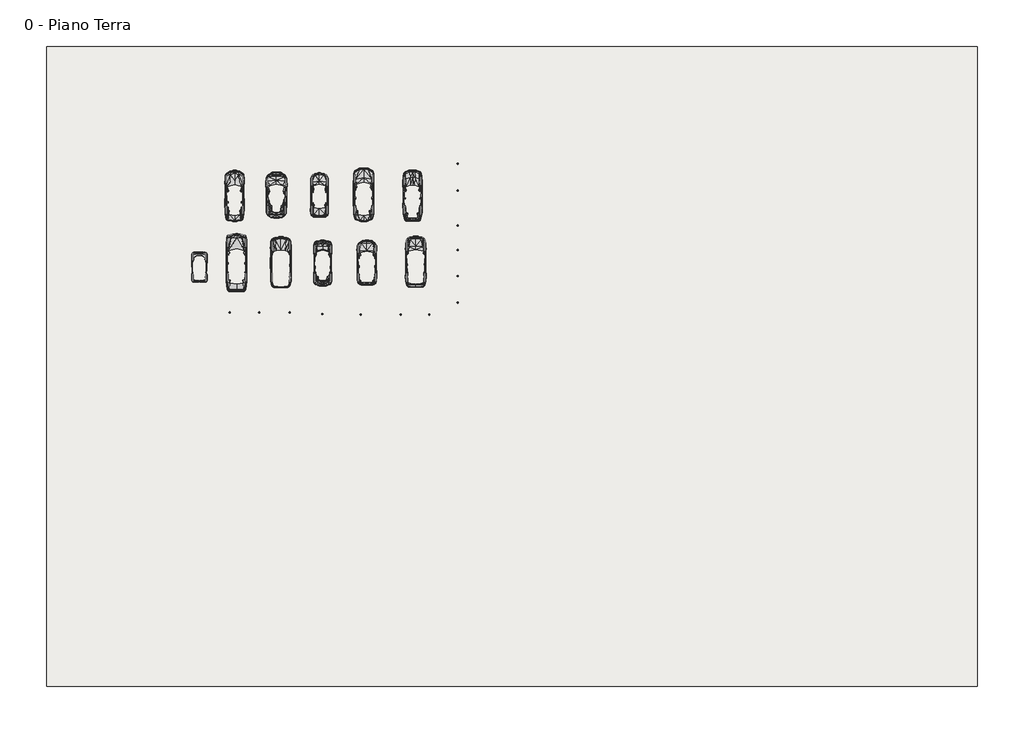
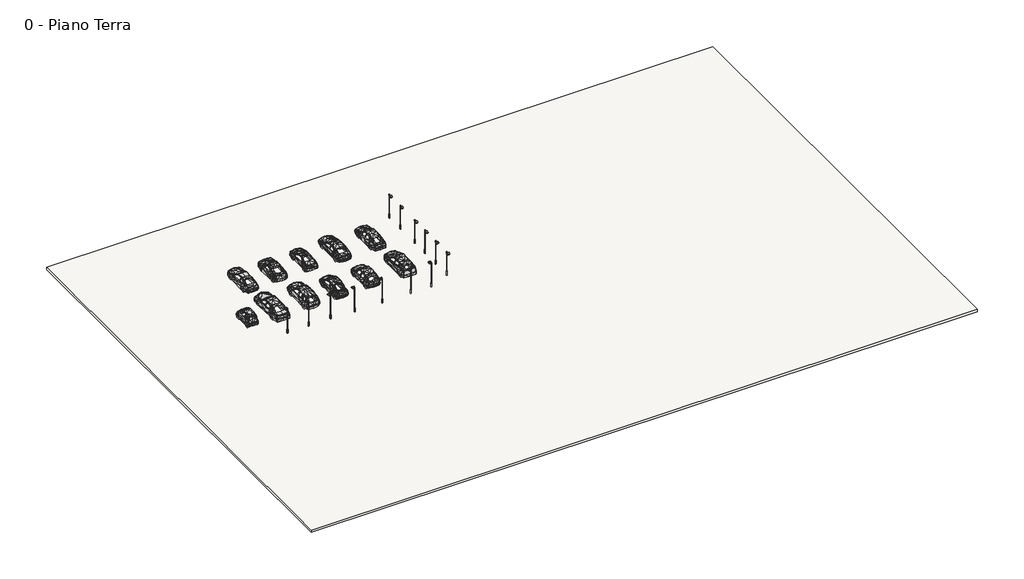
# One storey: 13 light fixtures, 11 proxies, 1 slab.
"""IFC4 building model written with IfcOpenShell, lengths in millimetres."""

from ifc_helpers import new_model, si_unit, frame, origin, place, context, project, spatial, polyline, outline, extrude, transform, mapped, element, save
from components import entourage_31f8b51e, entourage_d8d06d19, auto_2_305272bd, auto_focus_0fb7b8e4, auto_smart_939e52a2, auto1_e486ee05, auto3_8ea4b4d7, auto4_f5e02f9d, auto5_2e8bc6a9, auto6_a4401406, auto7_87290f92, light_fixture_99749a2d

model = new_model("IFC4")

# Units and contexts
model_context = context("Model", 3, world=origin())
ifc_project = project(units=[si_unit("LENGTHUNIT", "METRE", prefix="MILLI")], contexts=[model_context])

# Site, building, storey
site = spatial("IfcSite", under=ifc_project)
building = spatial("IfcBuilding", under=site)
storey = spatial("IfcBuildingStorey", under=building, Name="0 - Piano Terra", Elevation=0.0)

# Proxies
placement = place(None, origin())
entourage_shape = entourage_31f8b51e(model_context)
element("IfcBuildingElementProxy", 1, Name="M_RPC maschio : auto_maggiolino", ObjectType="M_RPC maschio : auto_maggiolino", at=placement, inside=storey, context=model_context, shape_type="MappedRepresentation", body=[
    mapped(entourage_shape, transform((2961.9839308, -3175.9774026, 0.0), x_axis=(1.0, 0.0, 0.0), y_axis=(0.0, 1.0, 0.0), z_axis=(0.0, 0.0, 1.0))),
])
entourage_2_shape = entourage_d8d06d19(model_context)
element("IfcBuildingElementProxy", 2, Name="M_RPC maschio : auto yaris", ObjectType="M_RPC maschio : auto yaris", at=placement, inside=storey, context=model_context, shape_type="MappedRepresentation", body=[
    mapped(entourage_2_shape, transform((6761.9839308, -3175.9774026, 0.0), x_axis=(1.0, 0.0, 0.0), y_axis=(0.0, 1.0, 0.0), z_axis=(0.0, 0.0, 1.0))),
])
auto_2_shape = auto_2_305272bd(model_context)
element("IfcBuildingElementProxy", 3, Name="M_RPC maschio : auto 2", ObjectType="M_RPC maschio : auto 2", at=placement, inside=storey, context=model_context, shape_type="MappedRepresentation", body=[
    mapped(auto_2_shape, transform((-1014.0131599, 2629.58338, 0.0), x_axis=(1.0, 0.0, 0.0), y_axis=(0.0, 1.0, 0.0), z_axis=(0.0, 0.0, 1.0))),
])
auto_focus_shape = auto_focus_0fb7b8e4(model_context)
element("IfcBuildingElementProxy", 4, Name="M_RPC maschio : auto focus", ObjectType="M_RPC maschio : auto focus", at=placement, inside=storey, context=model_context, shape_type="MappedRepresentation", body=[
    mapped(auto_focus_shape, transform((10961.9839308, -3175.9774026, 0.0), x_axis=(1.0, 0.0, 0.0), y_axis=(0.0, 1.0, 0.0), z_axis=(0.0, 0.0, 1.0))),
])
auto_smart_shape = auto_smart_939e52a2(model_context)
element("IfcBuildingElementProxy", 5, Name="M_RPC maschio : auto smart", ObjectType="M_RPC maschio : auto smart", at=placement, inside=storey, context=model_context, shape_type="MappedRepresentation", body=[
    mapped(auto_smart_shape, transform((-7638.0160692, -3175.9774026, 0.0), x_axis=(1.0, 0.0, 0.0), y_axis=(0.0, 1.0, 0.0), z_axis=(0.0, 0.0, 1.0))),
])
auto1_shape = auto1_e486ee05(model_context)
element("IfcBuildingElementProxy", 6, Name="M_RPC maschio : auto1", ObjectType="M_RPC maschio : auto1", at=placement, inside=storey, context=model_context, shape_type="MappedRepresentation", body=[
    mapped(auto1_shape, transform((-4614.0131599, 2629.58338, 0.0), x_axis=(1.0, 0.0, 0.0), y_axis=(0.0, 1.0, 0.0), z_axis=(0.0, 0.0, 1.0))),
])
auto3_shape = auto3_8ea4b4d7(model_context)
element("IfcBuildingElementProxy", 7, Name="M_RPC maschio : auto3", ObjectType="M_RPC maschio : auto3", at=placement, inside=storey, context=model_context, shape_type="MappedRepresentation", body=[
    mapped(auto3_shape, transform((2685.9868401, 2629.58338, 0.0), x_axis=(1.0, 0.0, 0.0), y_axis=(0.0, 1.0, 0.0), z_axis=(0.0, 0.0, 1.0))),
])
auto4_shape = auto4_f5e02f9d(model_context)
element("IfcBuildingElementProxy", 8, Name="M_RPC maschio : auto4", ObjectType="M_RPC maschio : auto4", at=placement, inside=storey, context=model_context, shape_type="MappedRepresentation", body=[
    mapped(auto4_shape, transform((6485.9868401, 2629.58338, 0.0), x_axis=(1.0, 0.0, 0.0), y_axis=(0.0, 1.0, 0.0), z_axis=(0.0, 0.0, 1.0))),
])
auto5_shape = auto5_2e8bc6a9(model_context)
element("IfcBuildingElementProxy", 9, Name="M_RPC maschio : auto5", ObjectType="M_RPC maschio : auto5", at=placement, inside=storey, context=model_context, shape_type="MappedRepresentation", body=[
    mapped(auto5_shape, transform((10685.9868401, 2629.58338, 0.0), x_axis=(1.0, 0.0, 0.0), y_axis=(0.0, 1.0, 0.0), z_axis=(0.0, 0.0, 1.0))),
])
auto6_shape = auto6_a4401406(model_context)
element("IfcBuildingElementProxy", 10, Name="M_RPC maschio : auto6", ObjectType="M_RPC maschio : auto6", at=placement, inside=storey, context=model_context, shape_type="MappedRepresentation", body=[
    mapped(auto6_shape, transform((-4438.0160692, -3175.9774026, 0.0), x_axis=(1.0, 0.0, 0.0), y_axis=(0.0, 1.0, 0.0), z_axis=(0.0, 0.0, 1.0))),
])
auto7_shape = auto7_87290f92(model_context)
element("IfcBuildingElementProxy", 11, Name="M_RPC maschio : auto7", ObjectType="M_RPC maschio : auto7", at=placement, inside=storey, context=model_context, shape_type="MappedRepresentation", body=[
    mapped(auto7_shape, transform((-638.0160692, -3175.9774026, 0.0), x_axis=(1.0, 0.0, 0.0), y_axis=(0.0, 1.0, 0.0), z_axis=(0.0, 0.0, 1.0))),
])

# Light fixtures
light_fixture_shape = light_fixture_99749a2d(model_context)
element("IfcLightFixture", 12, ObjectType="Lampione (4) : Lampione (4)", at=placement, inside=storey, context=model_context, shape_type="MappedRepresentation", body=[
    mapped(light_fixture_shape, transform((14551.4133642, 6596.492112, 0.0), x_axis=(1.0, 0.0, 0.0), y_axis=(0.0, 1.0, 0.0), z_axis=(0.0, 0.0, 1.0))),
])
element("IfcLightFixture", 13, ObjectType="Lampione (4) : Lampione (4)", at=placement, inside=storey, context=model_context, shape_type="MappedRepresentation", body=[
    mapped(light_fixture_shape, transform((14551.4133642, 4302.3762188, 0.0), x_axis=(1.0, 0.0, 0.0), y_axis=(0.0, 1.0, 0.0), z_axis=(0.0, 0.0, 1.0))),
])
element("IfcLightFixture", 14, ObjectType="Lampione (4) : Lampione (4)", at=placement, inside=storey, context=model_context, shape_type="MappedRepresentation", body=[
    mapped(light_fixture_shape, transform((14551.4133642, 1291.349109, 0.0), x_axis=(1.0, 0.0, 0.0), y_axis=(0.0, 1.0, 0.0), z_axis=(0.0, 0.0, 1.0))),
])
element("IfcLightFixture", 15, ObjectType="Lampione (4) : Lampione (4)", at=placement, inside=storey, context=model_context, shape_type="MappedRepresentation", body=[
    mapped(light_fixture_shape, transform((14551.4133642, -811.5904597, 0.0), x_axis=(1.0, 0.0, 0.0), y_axis=(0.0, 1.0, 0.0), z_axis=(0.0, 0.0, 1.0))),
])
element("IfcLightFixture", 16, ObjectType="Lampione (4) : Lampione (4)", at=placement, inside=storey, context=model_context, shape_type="MappedRepresentation", body=[
    mapped(light_fixture_shape, transform((14551.4133642, -3057.9122717, 0.0), x_axis=(1.0, 0.0, 0.0), y_axis=(0.0, 1.0, 0.0), z_axis=(0.0, 0.0, 1.0))),
])
element("IfcLightFixture", 17, ObjectType="Lampione (4) : Lampione (4)", at=placement, inside=storey, context=model_context, shape_type="MappedRepresentation", body=[
    mapped(light_fixture_shape, transform((14551.4133642, -5352.0281649, 0.0), x_axis=(1.0, 0.0, 0.0), y_axis=(0.0, 1.0, 0.0), z_axis=(0.0, 0.0, 1.0))),
])
element("IfcLightFixture", 18, ObjectType="Lampione (4) : Lampione (4)", at=placement, inside=storey, context=model_context, shape_type="MappedRepresentation", body=[
    mapped(light_fixture_shape, transform((-5044.1598899, -6184.7779588, 0.0), x_axis=(-1.0, 0.0, 0.0), y_axis=(0.0, -1.0, 0.0), z_axis=(0.0, 0.0, 1.0))),
])
element("IfcLightFixture", 19, ObjectType="Lampione (4) : Lampione (4)", at=placement, inside=storey, context=model_context, shape_type="MappedRepresentation", body=[
    mapped(light_fixture_shape, transform((-2502.8027375, -6184.7779588, 0.0), x_axis=(-1.0, 0.0, 0.0), y_axis=(0.0, -1.0, 0.0), z_axis=(0.0, 0.0, 1.0))),
])
element("IfcLightFixture", 20, ObjectType="Lampione (4) : Lampione (4)", at=placement, inside=storey, context=model_context, shape_type="MappedRepresentation", body=[
    mapped(light_fixture_shape, transform((120.5336779, -6184.7779588, 0.0), x_axis=(-1.0, 0.0, 0.0), y_axis=(0.0, -1.0, 0.0), z_axis=(0.0, 0.0, 1.0))),
])
element("IfcLightFixture", 21, ObjectType="Lampione (4) : Lampione (4)", at=placement, inside=storey, context=model_context, shape_type="MappedRepresentation", body=[
    mapped(light_fixture_shape, transform((2935.1550402, -6321.4100638, 0.0), x_axis=(-1.0, 0.0, 0.0), y_axis=(0.0, -1.0, 0.0), z_axis=(0.0, 0.0, 1.0))),
])
element("IfcLightFixture", 22, ObjectType="Lampione (4) : Lampione (4)", at=placement, inside=storey, context=model_context, shape_type="MappedRepresentation", body=[
    mapped(light_fixture_shape, transform((6214.3255594, -6376.0629057, 0.0), x_axis=(-1.0, 0.0, 0.0), y_axis=(0.0, -1.0, 0.0), z_axis=(0.0, 0.0, 1.0))),
])
element("IfcLightFixture", 23, ObjectType="Lampione (4) : Lampione (4)", at=placement, inside=storey, context=model_context, shape_type="MappedRepresentation", body=[
    mapped(light_fixture_shape, transform((9657.4546045, -6376.0629057, 0.0), x_axis=(-1.0, 0.0, 0.0), y_axis=(0.0, -1.0, 0.0), z_axis=(0.0, 0.0, 1.0))),
])
element("IfcLightFixture", 24, ObjectType="Lampione (4) : Lampione (4)", at=placement, inside=storey, context=model_context, shape_type="MappedRepresentation", body=[
    mapped(light_fixture_shape, transform((12116.8324939, -6376.0629057, 0.0), x_axis=(-1.0, 0.0, 0.0), y_axis=(0.0, -1.0, 0.0), z_axis=(0.0, 0.0, 1.0))),
])

# Slab
element("IfcSlab", 25, ObjectType="Latero Cementizio - 30 cm", at=placement, inside=storey, context=model_context, shape_type="SweptSolid", body=[
    extrude(outline(polyline([(59231.5874258, 16681.0432256), (59231.5874258, -38318.9567744), (-20768.4125742, -38318.9567744), (-20768.4125742, 16681.0432256), (59231.5874258, 16681.0432256)])), frame((0.0, 0.0, -300.0), z_axis=(0.0, 0.0, 1.0), x_axis=(1.0, 0.0, 0.0)), (0.0, 0.0, 1.0), 300.0),
])

save(model, "model.ifc")
